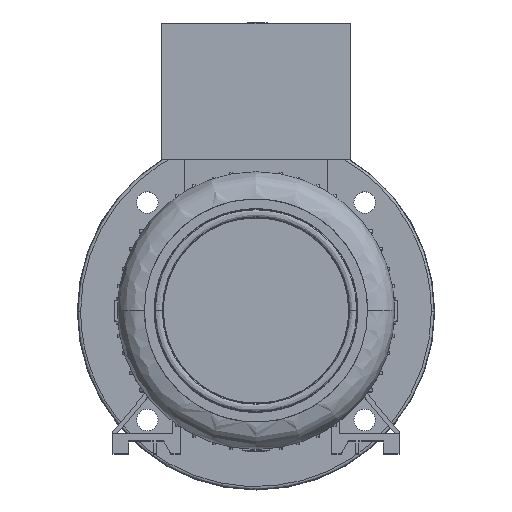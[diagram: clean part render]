
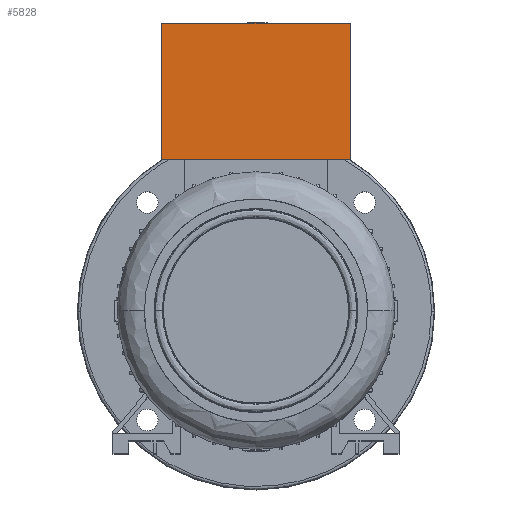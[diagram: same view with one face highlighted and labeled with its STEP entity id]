
A CAD part, top view. The second image highlights one B-rep face of the part: STEP entity #5828.
In plain terms, the highlighted planar face has unit normal (0, 0, 1).
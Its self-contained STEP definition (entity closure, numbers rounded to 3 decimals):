
#1248 = VECTOR ( 'NONE', #2020, 1000. ) ;
#2020 = DIRECTION ( 'NONE',  ( -1., 0., 0. ) ) ;
#2498 = VERTEX_POINT ( 'NONE', #16105 ) ;
#3201 = VECTOR ( 'NONE', #15879, 1000. ) ;
#3233 = CARTESIAN_POINT ( 'NONE',  ( 66., 106., 40. ) ) ;
#4819 = CARTESIAN_POINT ( 'NONE',  ( -66., -84.919, 40. ) ) ;
#5828 = ADVANCED_FACE ( 'NONE', ( #6329 ), #21686, .T. ) ;
#6227 = CARTESIAN_POINT ( 'NONE',  ( -66., 106., 40. ) ) ;
#6329 = FACE_OUTER_BOUND ( 'NONE', #33850, .T. ) ;
#8459 = VECTOR ( 'NONE', #32800, 1000. ) ;
#11777 = EDGE_CURVE ( 'NONE', #34013, #22214, #21140, .T. ) ;
#15073 = VECTOR ( 'NONE', #17776, 1000. ) ;
#15350 = ORIENTED_EDGE ( 'NONE', *, *, #22239, .F. ) ;
#15879 = DIRECTION ( 'NONE',  ( 0., 1., 0. ) ) ;
#16105 = CARTESIAN_POINT ( 'NONE',  ( -66., 201., 40. ) ) ;
#16318 = LINE ( 'NONE', #4819, #3201 ) ;
#17776 = DIRECTION ( 'NONE',  ( 0., 1., 0. ) ) ;
#18813 = DIRECTION ( 'NONE',  ( 1., 0., 0. ) ) ;
#19779 = ORIENTED_EDGE ( 'NONE', *, *, #31612, .F. ) ;
#19929 = CARTESIAN_POINT ( 'NONE',  ( 66., 201., 40. ) ) ;
#21140 = LINE ( 'NONE', #33498, #15073 ) ;
#21224 = DIRECTION ( 'NONE',  ( 0., 0., 1. ) ) ;
#21686 = PLANE ( 'NONE',  #31213 ) ;
#22214 = VERTEX_POINT ( 'NONE', #19929 ) ;
#22239 = EDGE_CURVE ( 'NONE', #2498, #22214, #33600, .T. ) ;
#22254 = CARTESIAN_POINT ( 'NONE',  ( -66., 201., 40. ) ) ;
#23782 = VERTEX_POINT ( 'NONE', #31945 ) ;
#23957 = ORIENTED_EDGE ( 'NONE', *, *, #11777, .T. ) ;
#24139 = ORIENTED_EDGE ( 'NONE', *, *, #32341, .F. ) ;
#31213 = AXIS2_PLACEMENT_3D ( 'NONE', #32363, #21224, #18813 ) ;
#31612 = EDGE_CURVE ( 'NONE', #34013, #23782, #32993, .T. ) ;
#31945 = CARTESIAN_POINT ( 'NONE',  ( -66., 106., 40. ) ) ;
#32341 = EDGE_CURVE ( 'NONE', #23782, #2498, #16318, .T. ) ;
#32363 = CARTESIAN_POINT ( 'NONE',  ( -66., -84.919, 40. ) ) ;
#32800 = DIRECTION ( 'NONE',  ( 1., 0., 0. ) ) ;
#32993 = LINE ( 'NONE', #6227, #1248 ) ;
#33498 = CARTESIAN_POINT ( 'NONE',  ( 66., -84.919, 40. ) ) ;
#33600 = LINE ( 'NONE', #22254, #8459 ) ;
#33850 = EDGE_LOOP ( 'NONE', ( #23957, #15350, #24139, #19779 ) ) ;
#34013 = VERTEX_POINT ( 'NONE', #3233 ) ;
